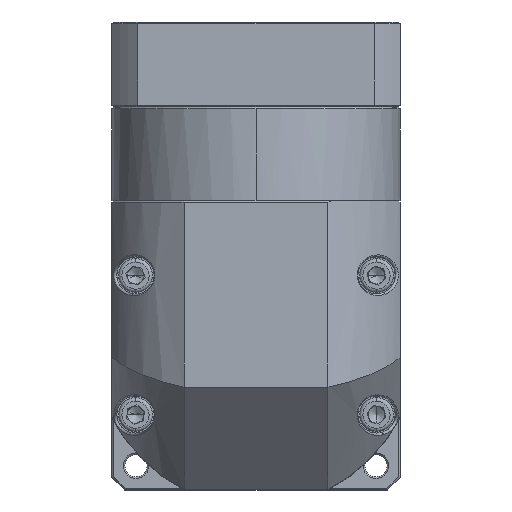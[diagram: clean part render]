
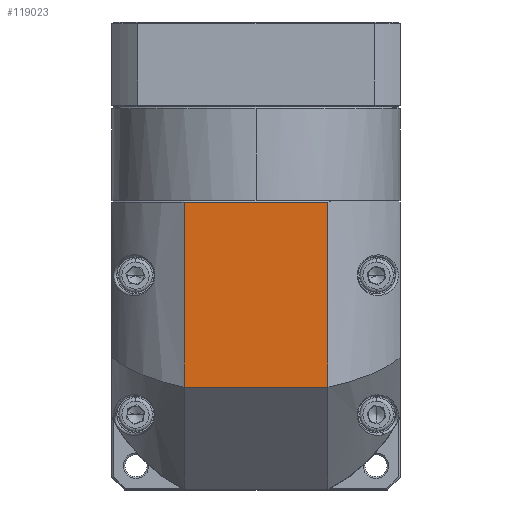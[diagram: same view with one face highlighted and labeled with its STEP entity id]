
A CAD part, top view. The second image highlights one B-rep face of the part: STEP entity #119023.
In plain terms, the highlighted planar face has unit normal (0, 0, 1).
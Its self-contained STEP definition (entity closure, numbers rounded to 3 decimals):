
#2010 = ORIENTED_EDGE ( 'NONE', *, *, #97780, .F. ) ;
#4958 = LINE ( 'NONE', #140422, #70997 ) ;
#6888 = LINE ( 'NONE', #9133, #47414 ) ;
#8395 = EDGE_CURVE ( 'NONE', #35389, #109806, #108026, .T. ) ;
#9133 = CARTESIAN_POINT ( 'NONE',  ( -40.268, -29.521, 78.878 ) ) ;
#10001 = PLANE ( 'NONE',  #44778 ) ;
#11388 = CARTESIAN_POINT ( 'NONE',  ( -82.694, 15.979, 78.878 ) ) ;
#13824 = ORIENTED_EDGE ( 'NONE', *, *, #125250, .F. ) ;
#18502 = DIRECTION ( 'NONE',  ( 0., 0., 1. ) ) ;
#19992 = DIRECTION ( 'NONE',  ( 0., -1., 0. ) ) ;
#29035 = VERTEX_POINT ( 'NONE', #63632 ) ;
#35310 = VECTOR ( 'NONE', #91938, 1000. ) ;
#35389 = VERTEX_POINT ( 'NONE', #11388 ) ;
#44778 = AXIS2_PLACEMENT_3D ( 'NONE', #51593, #18502, #115905 ) ;
#47414 = VECTOR ( 'NONE', #19992, 1000. ) ;
#51593 = CARTESIAN_POINT ( 'NONE',  ( -61.481, 28.479, 78.878 ) ) ;
#62988 = LINE ( 'NONE', #115003, #98313 ) ;
#63632 = CARTESIAN_POINT ( 'NONE',  ( -40.268, 15.979, 78.878 ) ) ;
#64977 = CARTESIAN_POINT ( 'NONE',  ( -40.268, 70.479, 78.878 ) ) ;
#70273 = CARTESIAN_POINT ( 'NONE',  ( -82.694, -29.521, 78.878 ) ) ;
#70997 = VECTOR ( 'NONE', #74648, 1000. ) ;
#74648 = DIRECTION ( 'NONE',  ( -1., 0., 0. ) ) ;
#91938 = DIRECTION ( 'NONE',  ( 0., 1., 0. ) ) ;
#96810 = CARTESIAN_POINT ( 'NONE',  ( -82.694, 70.479, 78.878 ) ) ;
#97780 = EDGE_CURVE ( 'NONE', #105190, #29035, #6888, .T. ) ;
#98313 = VECTOR ( 'NONE', #104550, 1000. ) ;
#101367 = FACE_OUTER_BOUND ( 'NONE', #115577, .T. ) ;
#104550 = DIRECTION ( 'NONE',  ( -1., 0., 0. ) ) ;
#105190 = VERTEX_POINT ( 'NONE', #64977 ) ;
#108026 = LINE ( 'NONE', #70273, #35310 ) ;
#109806 = VERTEX_POINT ( 'NONE', #96810 ) ;
#111856 = ORIENTED_EDGE ( 'NONE', *, *, #8395, .F. ) ;
#112783 = EDGE_CURVE ( 'NONE', #105190, #109806, #62988, .T. ) ;
#115003 = CARTESIAN_POINT ( 'NONE',  ( -61.481, 70.479, 78.878 ) ) ;
#115577 = EDGE_LOOP ( 'NONE', ( #111856, #13824, #2010, #117190 ) ) ;
#115905 = DIRECTION ( 'NONE',  ( 0., 1., 0. ) ) ;
#117190 = ORIENTED_EDGE ( 'NONE', *, *, #112783, .T. ) ;
#119023 = ADVANCED_FACE ( 'NONE', ( #101367 ), #10001, .T. ) ;
#125250 = EDGE_CURVE ( 'NONE', #29035, #35389, #4958, .T. ) ;
#140422 = CARTESIAN_POINT ( 'NONE',  ( -61.481, 15.979, 78.878 ) ) ;
